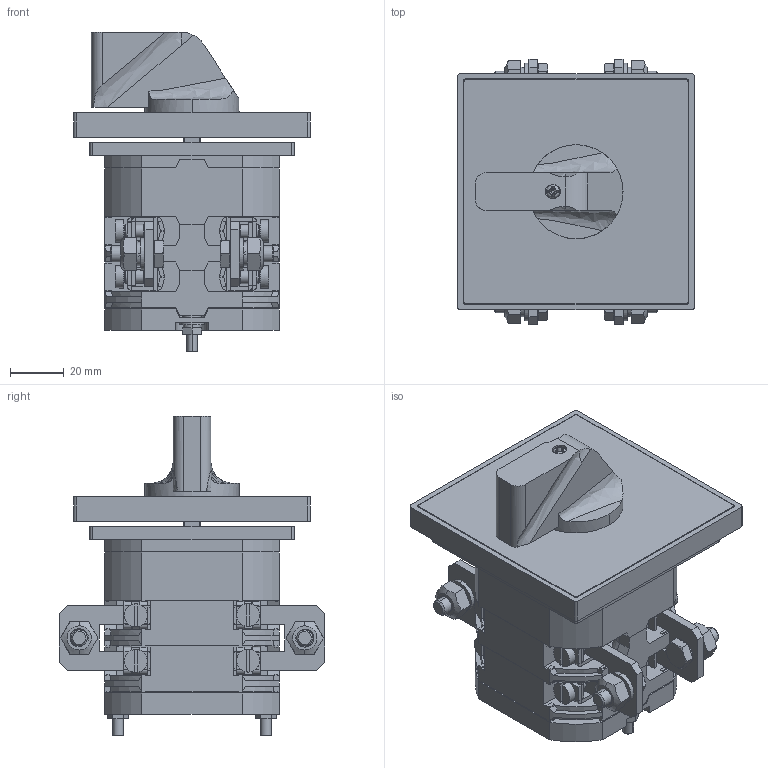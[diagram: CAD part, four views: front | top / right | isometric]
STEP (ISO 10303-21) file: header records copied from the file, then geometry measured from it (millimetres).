
FILE_DESCRIPTION (( 'STEP AP214' ), '1' );
FILE_NAME ('4G100-XXXX-U-R212,R214,S24 2ê.STEP', '2023-02-15T11:43:16', ( '' ), ( '' ), 'SwSTEP 2.0', 'SolidWorks 2018', '' );
FILE_SCHEMA (( 'AUTOMOTIVE_DESIGN' ));
Length unit declared in the file: millimetre
Products named in the file (1): 4G100-XXXX-U-R212,R214,S24 2ê
Bounding box: 88 x 99 x 119.12 mm (x, y, z)
Volume: 285122.1 mm3; surface area: 170623.1 mm2
Topology: 73 solids, 73 shells, 3268 faces, 8270 edges, 5234 vertices
Faces by surface type: plane 1930, cylinder 1050, cone 150, torus 99, bspline 39
Entity records: 148285 total; most frequent: CARTESIAN_POINT 32052, DIRECTION 16669, ORIENTED_EDGE 16534, EDGE_CURVE 8267, AXIS2_PLACEMENT_3D 5684, VECTOR 5301, LINE 5301, VERTEX_POINT 5234
